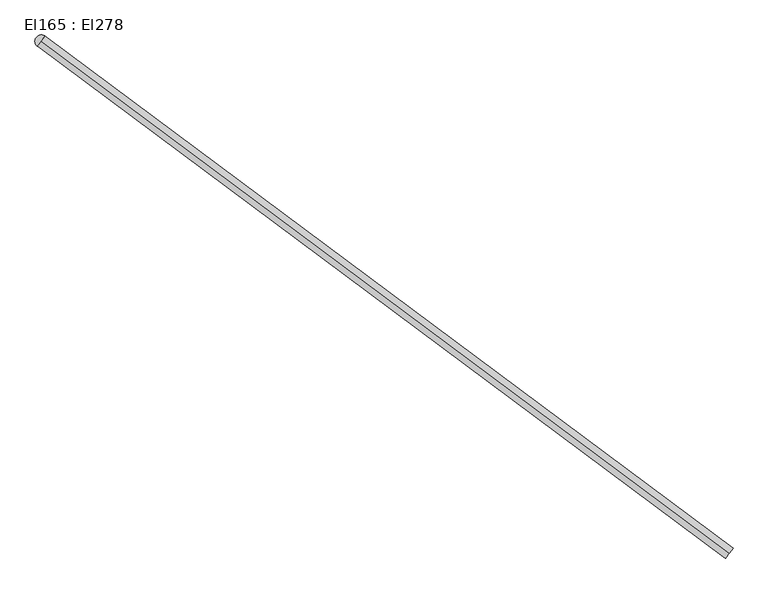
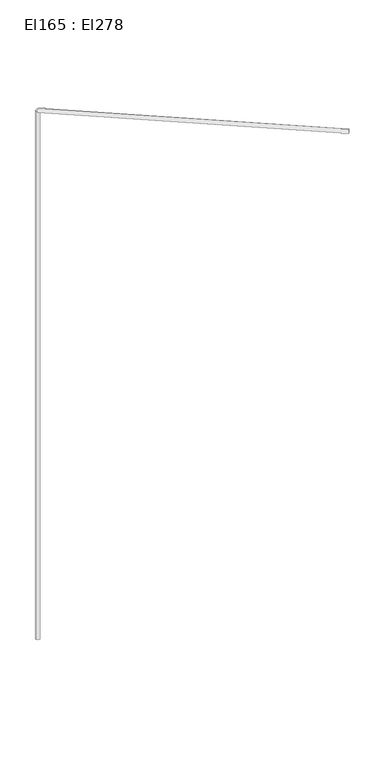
"""IFC4 building model written with IfcOpenShell, lengths in millimetres: cable carrier segment geometry, El165 : El278."""

from ifc_helpers import new_model, si_unit, point, frame, frame_2d, origin, place, context, project, spatial, circle_curve, trimmed, segment, composite_curve, outline, extrude, source, transform, mapped, element, save


def el165_el278_8a715c29(model_context):
    return source(origin(), model_context, "Body", "SweptSolid", [
        extrude(outline(composite_curve([segment(trimmed(circle_curve(frame_2d((0.0, -9.5)), 9.5), [point((0.0, -19.0))], [point((0.0, 0.0))], False, "CARTESIAN"), True, "CONTINUOUS"), segment(trimmed(circle_curve(frame_2d((0.0, -9.5)), 9.5), [point((0.0, 0.0))], [point((0.0, -19.0))], False, "CARTESIAN"), True, "CONTINUOUS")], self_intersect=False)), frame((6436.320315, 15236.9747543, 4459.5), z_axis=(-0.8021758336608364, 0.5970878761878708, 0.0), x_axis=(-0.5970878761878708, -0.8021758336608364, 0.0)), (0.0, 0.0, 1.0), 1273.84),
        extrude(outline(composite_curve([segment(trimmed(circle_curve(frame_2d((5414.4766511, 15997.5691745)), 9.5), [point((5404.9766511, 15997.5691745))], [point((5423.9766511, 15997.5691745))], False, "CARTESIAN"), True, "CONTINUOUS"), segment(trimmed(circle_curve(frame_2d((5414.4766511, 15997.5691745)), 9.5), [point((5423.9766511, 15997.5691745))], [point((5404.9766511, 15997.5691745))], False, "CARTESIAN"), True, "CONTINUOUS")], self_intersect=False)), frame((0.0, 0.0, 1830.0), z_axis=(0.0, 0.0, 1.0), x_axis=(1.0, 0.0, 0.0)), (0.0, 0.0, 1.0), 2620.0),
    ])


if __name__ == "__main__":
    model = new_model("IFC4")
    model_context = context("Model", 3, world=origin())
    ifc_project = project(units=[si_unit("LENGTHUNIT", "METRE", prefix="MILLI")], contexts=[model_context])
    site = spatial("IfcSite", under=ifc_project)
    building = spatial("IfcBuilding", under=site)
    placement = place(None, origin())
    el165_el278_shape = el165_el278_8a715c29(model_context)
    element("IfcCableCarrierSegment", 1, ObjectType="El165 : El278", at=placement, inside=building, context=model_context, shape_type="MappedRepresentation", body=[
        mapped(el165_el278_shape, transform((0.0, 0.0, 0.0), x_axis=(1.0, 0.0, 0.0), y_axis=(0.0, 1.0, 0.0), z_axis=(0.0, 0.0, 1.0))),
    ])
    save(model, "model.ifc")
